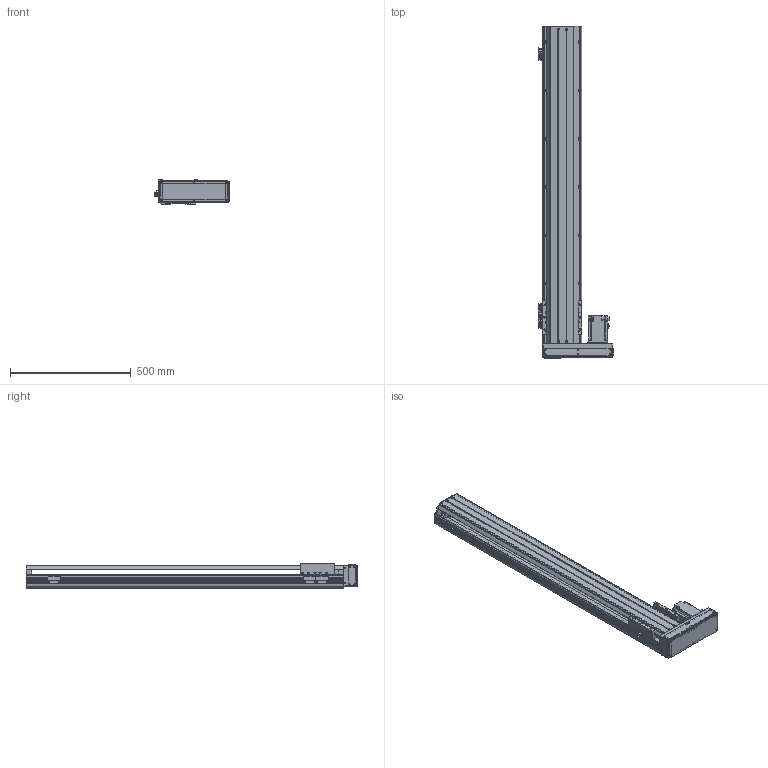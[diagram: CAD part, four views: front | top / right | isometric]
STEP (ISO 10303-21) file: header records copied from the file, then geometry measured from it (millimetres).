
FILE_DESCRIPTION(/* description */ ('MANUFACTURE'),/* implementation_level */ '2;1');
FILE_NAME(/* name */ '\\192.168.0.160\disk1\HAN SHIN Master\B-설계부문\C-표준\B-2024년\BC02-표준도면\+로봇 개선표준도면\홈페이지 표준 도면\홈페이지 최종 작업 폴더\3D\HR\HR160\HG160직렬\HR160-R70-N-1100-L10.stp',/* time_stamp */ '2025-01-20T09:55:48+09:00',/* author */ ('user'),/* organization */ (''),/* preprocessor_version */ 'ST-DEVELOPER v18.1',/* originating_system */ 'Autodesk Inventor 2022',/* authorisation */ 'LIP');
FILE_SCHEMA (('AUTOMOTIVE_DESIGN { 1 0 10303 214 3 1 1 }'));
Products named in the file (17): HR160-D70-N-0500-L10; HR160 S BASE (400W); HR140 FRONT BLOCK (20Pi)-N; HR140 REAR BLOCK (20Pi)-N; HR160 TABLE (W,N); HR160 S UPCOVER; HR160 750W FRONT COVER; HR160 400W LR BELT COVER; HR180 ACRYL COVER - 1; HR180 ACRYL COVER - 1_1; hg-kr73_; HR180 ACRYL COVER - 1_2; 750W MOTOR PLATE; HG160 750W LR MOTOR PLATE-사출; HR120 SENSOR DOG; SENSOR BRK(EE-SX674A); EE_SX674A
Assembly tree (21 placements, depth 2):
  HR160-D70-N-0500-L10
    HR160 S BASE (400W)
    HR140 FRONT BLOCK (20Pi)-N
    HR140 REAR BLOCK (20Pi)-N
    HR160 TABLE (W,N)
    HR160 S UPCOVER
    HR160 750W FRONT COVER
    HR160 400W LR BELT COVER
    HR180 ACRYL COVER - 1
    HR180 ACRYL COVER - 1_1
    HR180 ACRYL COVER - 1_2  x2
    hg-kr73_
    750W MOTOR PLATE
    HG160 750W LR MOTOR PLATE-사출
    EE_SX674A  x3
    SENSOR BRK(EE-SX674A)  x3
    HR120 SENSOR DOG
Bounding box: 312 x 1375 x 100 mm (x, y, z)
Volume: 6036907.7 mm3; surface area: 2038439.6 mm2
Topology: 21 solids, 21 shells, 3113 faces, 8775 edges, 5795 vertices
Faces by surface type: plane 2219, cylinder 768, cone 122, sphere 4
Full cylindrical faces by diameter (mm): 2.459 x52, 3 x6, 3.242 x16, 3.4 x20, 3.5 x6, 4 x8, 4.134 x8, 4.5 x18, 4.917 x48, 5 x20, 5.5 x21, 5.9 x4, 6 x10, 6.6 x28, 7 x4, 7.6 x4, 9 x6, 9.5 x17, 11 x22, 19 x1, 25 x1, 27 x1, 30 x1, 32 x1, 38 x1, 42 x2, 44.5 x1, 70 x2
Entity records: 98194 total; most frequent: CARTESIAN_POINT 19458, ORIENTED_EDGE 16430, DIRECTION 15265, EDGE_CURVE 8215, LINE 6485, VECTOR 6485, VERTEX_POINT 5479, AXIS2_PLACEMENT_3D 4390
